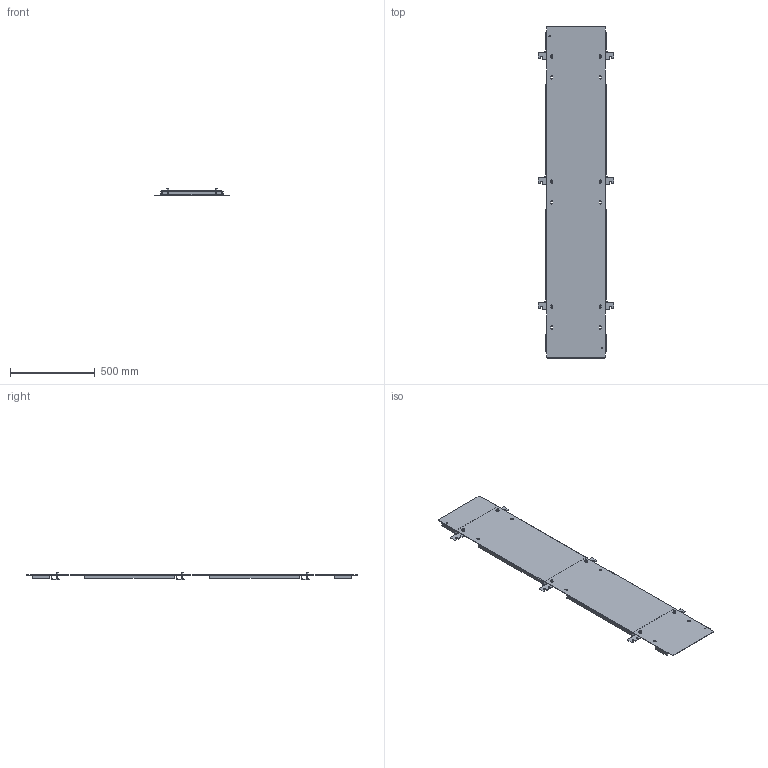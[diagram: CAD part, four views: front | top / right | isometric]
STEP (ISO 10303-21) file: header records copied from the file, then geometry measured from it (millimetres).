
FILE_DESCRIPTION (( 'STEP AP203' ), '1' );
FILE_NAME ('au9018sp.STEP', '2024-09-25T13:55:56', ( '' ), ( '' ), 'SwSTEP 2.0', 'SolidWorks 2020', '' );
FILE_SCHEMA (( 'CONFIG_CONTROL_DESIGN' ));
Length unit declared in the file: inch
Products named in the file (5): au9018sp; 89182958_10237006; 89182960; 89232871_89182949; 22112001_AFTER WELD
Assembly tree (7 placements, depth 3):
  au9018sp
    89232871_89182949
    89182960  x3
      89182958_10237006
      22112001_AFTER WELD
Bounding box: 444.5 x 1955.8 x 42.13 mm (x, y, z)
Volume: 2088146.6 mm3; surface area: 1662604.4 mm2
Topology: 10 solids, 10 shells, 419 faces, 1013 edges, 632 vertices
Faces by surface type: cylinder 184, plane 175, torus 48, cone 12
Entity records: 7294 total; most frequent: DIRECTION 1227, CARTESIAN_POINT 1138, ORIENTED_EDGE 1118, EDGE_CURVE 559, AXIS2_PLACEMENT_3D 439, VERTEX_POINT 350, VECTOR 349, LINE 349
